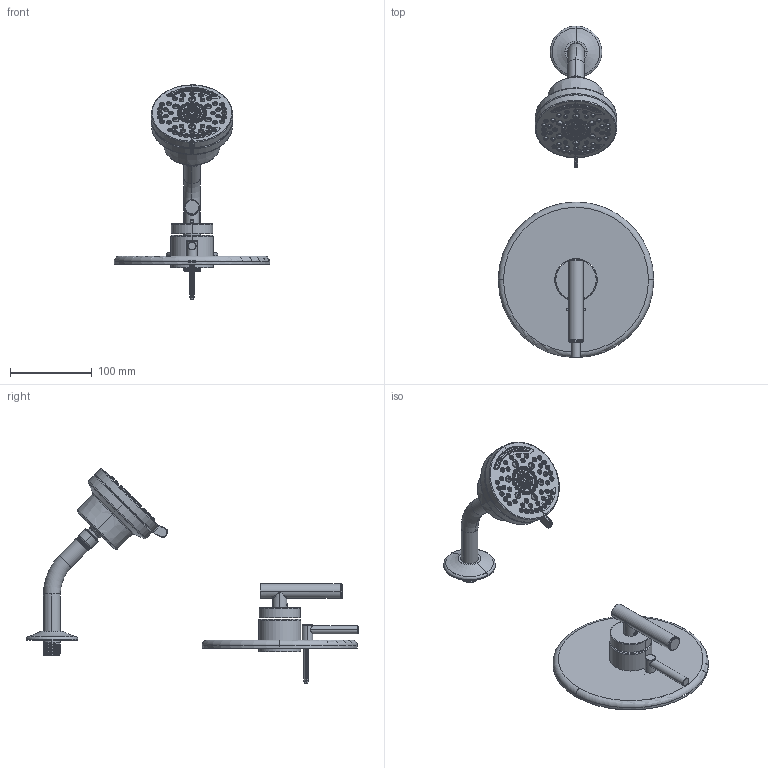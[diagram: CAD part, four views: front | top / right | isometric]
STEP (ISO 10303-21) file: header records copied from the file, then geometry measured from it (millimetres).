
FILE_DESCRIPTION (( 'STEP AP214' ), '1' );
FILE_NAME ('S3591BTRM.STEP', '2025-01-15T06:50:08', ( '' ), ( '' ), 'SwSTEP 2.0', 'SolidWorks 2023', '' );
FILE_SCHEMA (( 'AUTOMOTIVE_DESIGN' ));
Products named in the file (1): S3591BTRM
Bounding box: 190.5 x 407.04 x 263 mm (x, y, z)
Surface area: 157912.2 mm2 (no closed solid volume)
Topology: 0 solids, 132 shells, 975 faces, 3914 edges, 3004 vertices
Faces by surface type: bspline 368, cone 300, plane 156, torus 69, cylinder 62, sphere 20
Entity records: 154989 total; most frequent: CARTESIAN_POINT 127423, ORIENTED_EDGE 5529, DIRECTION 4372, EDGE_CURVE 3909, VERTEX_POINT 3001, B_SPLINE_CURVE_WITH_KNOTS 2010, AXIS2_PLACEMENT_3D 1882, EDGE_LOOP 1300
